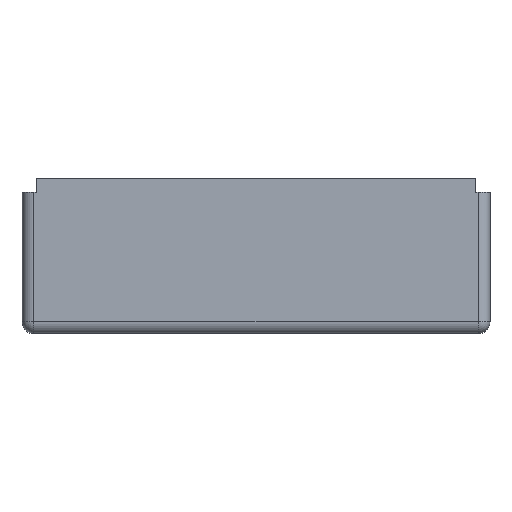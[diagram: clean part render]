
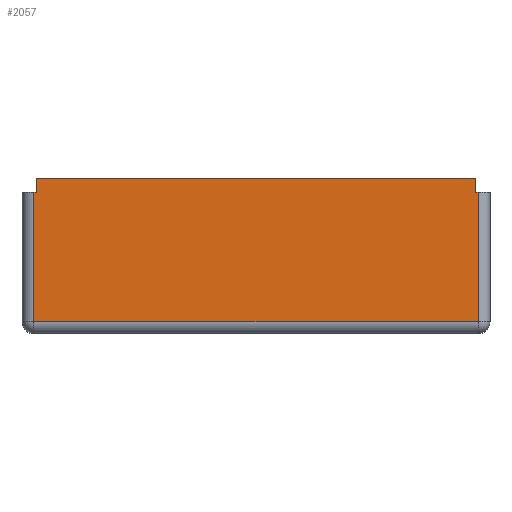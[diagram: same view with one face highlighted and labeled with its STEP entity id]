
A CAD part, left-side view. The second image highlights one B-rep face of the part: STEP entity #2057.
In plain terms, the highlighted planar face has unit normal (-1, 0, 0).
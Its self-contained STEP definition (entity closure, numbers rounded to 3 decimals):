
#106=PLANE('',#2245);
#191=FACE_OUTER_BOUND('',#316,.T.);
#316=EDGE_LOOP('',(#1605,#1606,#1607,#1608,#1609,#1610,#1611,#1612));
#477=LINE('',#3258,#664);
#484=LINE('',#3279,#671);
#509=LINE('',#3333,#696);
#510=LINE('',#3335,#697);
#511=LINE('',#3337,#698);
#512=LINE('',#3338,#699);
#513=LINE('',#3340,#700);
#514=LINE('',#3341,#701);
#664=VECTOR('',#2632,10.);
#671=VECTOR('',#2647,10.);
#696=VECTOR('',#2684,1000.);
#697=VECTOR('',#2685,1000.);
#698=VECTOR('',#2686,10.);
#699=VECTOR('',#2687,1000.);
#700=VECTOR('',#2688,1000.);
#701=VECTOR('',#2689,1000.);
#954=VERTEX_POINT('',#3255);
#955=VERTEX_POINT('',#3257);
#964=VERTEX_POINT('',#3276);
#965=VERTEX_POINT('',#3278);
#988=VERTEX_POINT('',#3332);
#989=VERTEX_POINT('',#3334);
#990=VERTEX_POINT('',#3336);
#991=VERTEX_POINT('',#3339);
#1189=EDGE_CURVE('',#955,#954,#477,.F.);
#1199=EDGE_CURVE('',#965,#964,#484,.F.);
#1226=EDGE_CURVE('',#988,#965,#509,.T.);
#1227=EDGE_CURVE('',#989,#964,#510,.T.);
#1228=EDGE_CURVE('',#990,#989,#511,.F.);
#1229=EDGE_CURVE('',#990,#955,#512,.T.);
#1230=EDGE_CURVE('',#954,#991,#513,.T.);
#1231=EDGE_CURVE('',#991,#988,#514,.T.);
#1605=ORIENTED_EDGE('',*,*,#1226,.T.);
#1606=ORIENTED_EDGE('',*,*,#1199,.T.);
#1607=ORIENTED_EDGE('',*,*,#1227,.F.);
#1608=ORIENTED_EDGE('',*,*,#1228,.F.);
#1609=ORIENTED_EDGE('',*,*,#1229,.T.);
#1610=ORIENTED_EDGE('',*,*,#1189,.T.);
#1611=ORIENTED_EDGE('',*,*,#1230,.T.);
#1612=ORIENTED_EDGE('',*,*,#1231,.T.);
#2057=ADVANCED_FACE('',(#191),#106,.F.);
#2245=AXIS2_PLACEMENT_3D('',#3331,#2682,#2683);
#2632=DIRECTION('',(0.,-1.,0.));
#2647=DIRECTION('',(0.,-1.,0.));
#2682=DIRECTION('center_axis',(1.,0.,0.));
#2683=DIRECTION('ref_axis',(0.,0.,-1.));
#2684=DIRECTION('',(0.,0.,1.));
#2685=DIRECTION('',(0.,0.,-1.));
#2686=DIRECTION('',(0.,1.,0.));
#2687=DIRECTION('',(0.,0.,-1.));
#2688=DIRECTION('',(0.,0.,-1.));
#2689=DIRECTION('',(0.,-1.,0.));
#3255=CARTESIAN_POINT('',(0.,38.4,11.9));
#3257=CARTESIAN_POINT('',(0.,38.2,11.9));
#3258=CARTESIAN_POINT('',(0.,0.,11.9));
#3276=CARTESIAN_POINT('',(0.,1.2,11.9));
#3278=CARTESIAN_POINT('',(0.,1.,11.9));
#3279=CARTESIAN_POINT('',(0.,0.,11.9));
#3331=CARTESIAN_POINT('Origin',(0.,0.,1.2));
#3332=CARTESIAN_POINT('',(0.,1.,1.));
#3333=CARTESIAN_POINT('',(0.,1.,1.2));
#3334=CARTESIAN_POINT('',(0.,1.2,13.1));
#3335=CARTESIAN_POINT('',(0.,1.2,10.));
#3336=CARTESIAN_POINT('',(0.,38.2,13.1));
#3337=CARTESIAN_POINT('',(0.,0.,13.1));
#3338=CARTESIAN_POINT('',(0.,38.2,10.));
#3339=CARTESIAN_POINT('',(0.,38.4,1.));
#3340=CARTESIAN_POINT('',(0.,38.4,1.2));
#3341=CARTESIAN_POINT('',(0.,0.,1.));
